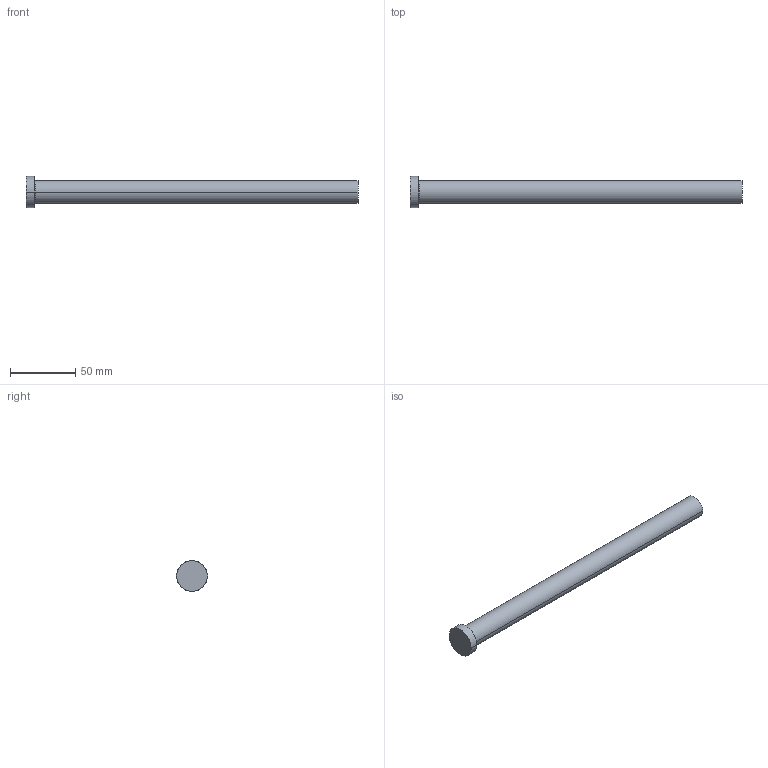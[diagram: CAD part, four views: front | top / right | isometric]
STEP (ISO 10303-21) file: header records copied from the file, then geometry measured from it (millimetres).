
FILE_DESCRIPTION (( 'STEP AP214' ), '1' );
FILE_NAME ('P39-10.STEP', '2020-03-12T12:11:53', ( '' ), ( '' ), 'SwSTEP 2.0', 'SolidWorks 2018', '' );
FILE_SCHEMA (( 'AUTOMOTIVE_DESIGN' ));
Length unit declared in the file: inch
Products named in the file (1): P39-10
Bounding box: 254 x 23.81 x 23.81 mm (x, y, z)
Volume: 62059.7 mm3; surface area: 14915.3 mm2
Topology: 1 solids, 1 shells, 13 faces, 24 edges, 14 vertices
Faces by surface type: cone 4, cylinder 4, plane 3, torus 2
Entity records: 366 total; most frequent: DIRECTION 68, CARTESIAN_POINT 52, ORIENTED_EDGE 48, AXIS2_PLACEMENT_3D 30, EDGE_CURVE 24, CIRCLE 16, VERTEX_POINT 14, EDGE_LOOP 14
